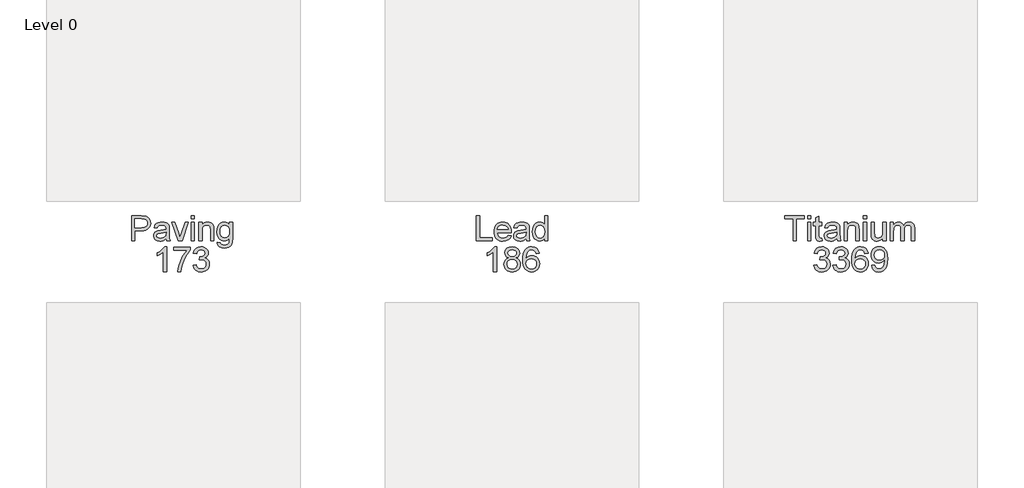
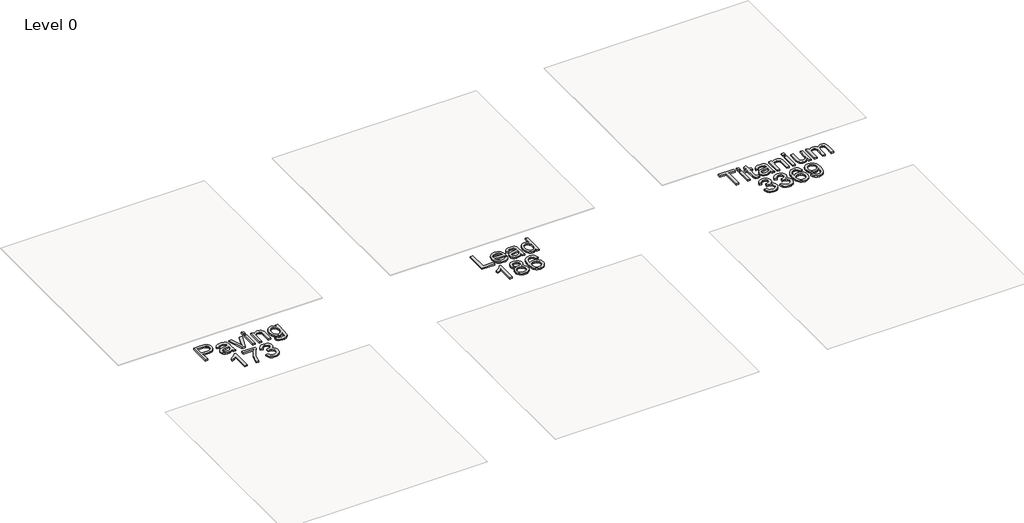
# One storey, part 6 of 6: 3 proxies.
"""IFC4 building model written with IfcOpenShell, lengths in millimetres."""

from ifc_helpers import new_model, si_unit, origin, origin_with_axes, place, context, project, spatial, polyline, outline, extrude, element, save

model = new_model("IFC4")

# Units and contexts
model_context = context("Model", 3, world=origin())
ifc_project = project(units=[si_unit("LENGTHUNIT", "METRE", prefix="MILLI")], contexts=[model_context])

# Site, building, storey
site = spatial("IfcSite", under=ifc_project)
building = spatial("IfcBuilding", under=site)
storey = spatial("IfcBuildingStorey", under=building, Name="Level 0", Elevation=0.0)

# Proxies
placement = place(None, origin())
element("IfcBuildingElementProxy", 1, Name="300mm Arial", ObjectType="300mm Arial", at=placement, inside=storey, context=model_context, shape_type="SweptSolid", body=[
    extrude(outline(polyline([(-445.4214187, 2062.8269821), (-445.4214187, 2358.2115975), (-335.9502648, 2358.2115975), (-291.8156494, 2355.3990975), (-272.1371639, 2350.1436889), (-255.9382456, 2341.5890014), (-242.8943754, 2329.3474148), (-232.681034, 2313.0313091), (-226.0824764, 2293.7855158), (-223.8829571, 2272.7548668), (-229.8234619, 2237.9411648), (-237.2490929, 2222.7112971), (-247.6449764, 2208.9327514), (-261.9170617, 2197.5114773), (-280.9712985, 2189.3534245), (-304.8076867, 2184.4585927), (-333.4262264, 2182.8269821), (-408.4983417, 2182.8269821), (-408.4983417, 2062.8269821), (-445.4214187, 2062.8269821)]), holes=[polyline([(-408.4983417, 2219.7500591), (-331.2627648, 2219.7500591), (-298.5223802, 2223.1394821), (-276.8877648, 2233.3077514), (-264.8264667, 2249.6238571), (-260.806034, 2271.4567898), (-263.1768273, 2288.0433283), (-270.2892071, 2302.0337129), (-281.25976, 2312.5625591), (-295.2050725, 2318.7644821), (-332.1281494, 2321.2885206), (-408.4983417, 2321.2885206), (-408.4983417, 2219.7500591)])]), origin_with_axes(), (0.0, 0.0, 1.0), 20.0),
    extrude(outline(polyline([(-39.2675725, 2090.5192898), (-56.9087985, 2075.3930879), (-75.072861, 2065.4952514), (-94.1744235, 2060.032511), (-114.6281494, 2058.2115975), (-145.4845196, 2062.5926071), (-168.2459379, 2075.735636), (-182.2813946, 2095.6935687), (-186.9598802, 2120.5192898), (-185.1930533, 2135.8257802), (-179.8925725, 2149.7260206), (-171.7164908, 2161.6250591), (-161.322861, 2170.9279437), (-135.4694956, 2183.0433283), (-103.5223802, 2188.5962129), (-65.7699764, 2194.4375591), (-39.4839187, 2201.2885206), (-39.2675725, 2209.5096745), (-41.8096398, 2225.9880398), (-49.4358417, 2236.7692898), (-66.4911302, 2244.7740975), (-90.2531494, 2247.4423668), (-112.2483417, 2245.6665254), (-127.6089187, 2240.3390014), (-138.0836783, 2230.486237), (-145.4214187, 2215.1346745), (-182.3444956, 2219.7500591), (-175.9352408, 2239.9423668), (-166.3709379, 2255.8077514), (-152.759159, 2267.9411648), (-134.2074764, 2276.9375591), (-111.5181735, 2282.5084725), (-85.493534, 2284.3654437), (-60.5325965, 2282.7248187), (-40.7459379, 2277.8029437), (-25.8270677, 2270.4021023), (-15.4694956, 2261.3245783), (-8.6005052, 2250.1016216), (-4.1473802, 2236.2644821), (-2.3444956, 2203.9567898), (-2.3444956, 2158.0192898), (-0.4694956, 2093.8726552), (6.8862736, 2062.8269821), (-30.0368033, 2062.8269821), (-39.2675725, 2090.5192898)]), holes=[polyline([(-39.2675725, 2164.3654437), (-98.8348802, 2153.0433283), (-130.6017071, 2147.0577514), (-144.9887264, 2137.3221745), (-150.0368033, 2123.1154437), (-147.2874042, 2112.1358764), (-139.0392071, 2103.1394821), (-125.4725004, 2097.1358764), (-106.7675725, 2095.1346745), (-86.9358417, 2097.3432081), (-69.4118033, 2103.9688091), (-55.2050725, 2113.7314293), (-45.3252648, 2125.3510206), (-40.9442552, 2137.3221745), (-39.4839187, 2153.9087129), (-39.2675725, 2164.3654437)])]), origin_with_axes(), (0.0, 0.0, 1.0), 20.0),
    extrude(outline(polyline([(101.645889, 2062.8269821), (25.3478121, 2279.7500591), (64.4343506, 2279.7500591), (110.6603121, 2149.798136), (124.5785813, 2106.0962129), (138.208389, 2147.3462129), (184.7228121, 2279.7500591), (223.8093506, 2279.7500591), (148.4487736, 2062.8269821), (101.645889, 2062.8269821)])), origin_with_axes(), (0.0, 0.0, 1.0), 20.0),
    extrude(outline(polyline([(256.1170429, 2321.2885206), (256.1170429, 2358.2115975), (293.0401198, 2358.2115975), (293.0401198, 2321.2885206), (256.1170429, 2321.2885206)])), origin_with_axes(), (0.0, 0.0, 1.0), 20.0),
    extrude(outline(polyline([(256.1170429, 2062.8269821), (256.1170429, 2279.7500591), (293.0401198, 2279.7500591), (293.0401198, 2062.8269821), (256.1170429, 2062.8269821)])), origin_with_axes(), (0.0, 0.0, 1.0), 20.0),
    extrude(outline(polyline([(348.4247352, 2062.8269821), (348.4247352, 2279.7500591), (385.3478121, 2279.7500591), (385.3478121, 2249.4615975), (398.1753361, 2264.7320302), (413.5809852, 2275.6394821), (431.5647592, 2282.1839533), (452.1266583, 2284.3654437), (470.3267785, 2282.6076312), (486.9944467, 2277.3341937), (500.8946871, 2269.2031841), (510.7925236, 2258.8726552), (521.8622352, 2231.7212129), (523.8093506, 2196.0240975), (523.8093506, 2062.8269821), (486.8862736, 2062.8269821), (486.8862736, 2191.048136), (482.631466, 2223.7164052), (476.7450477, 2233.4429677), (467.5954083, 2240.9880398), (455.8676438, 2245.828785), (442.2468506, 2247.4423668), (420.6212496, 2243.8185687), (402.1867544, 2232.9471745), (394.8197172, 2224.0724749), (389.5575477, 2211.9435687), (385.3478121, 2177.923136), (385.3478121, 2062.8269821), (348.4247352, 2062.8269821)])), origin_with_axes(), (0.0, 0.0, 1.0), 20.0),
    extrude(outline(polyline([(565.3478121, 2044.3654437), (602.270889, 2039.7500591), (606.3454083, 2028.2115975), (614.2420429, 2020.2789052), (629.7648794, 2014.1130398), (650.083389, 2012.0577514), (671.7540621, 2014.3834725), (687.8718506, 2021.360636), (699.0497352, 2032.5385206), (705.9006967, 2047.4664052), (708.4247352, 2090.5192898), (696.1380765, 2078.4039052), (682.427139, 2069.7500591), (667.2919227, 2064.5577514), (650.7324275, 2062.8269821), (630.4882869, 2064.8417057), (612.6645188, 2070.8858764), (597.2611234, 2080.9594942), (584.2781006, 2095.0625591), (573.9768686, 2111.9826312), (566.6188458, 2130.5072706), (560.7324275, 2172.3702514), (563.3736535, 2202.1809485), (571.2973313, 2229.5938091), (584.224014, 2252.8239773), (601.8742544, 2270.0865975), (623.6440861, 2280.7957321), (648.9295429, 2284.3654437), (666.1966703, 2282.3462129), (681.8682448, 2276.2885206), (695.9442664, 2266.1923668), (708.4247352, 2252.0577514), (708.4247352, 2279.7500591), (745.3478121, 2279.7500591), (745.3478121, 2092.4664052), (742.8237736, 2049.2242177), (735.2516583, 2020.7476552), (722.2077881, 2001.8624389), (703.2684852, 1987.3942898), (678.8484131, 1978.1995783), (649.3622352, 1975.1346745), (615.0082688, 1979.4525831), (587.9559852, 1992.4063091), (577.7674335, 2002.130618), (570.6032208, 2014.03191), (566.463347, 2028.1101853), (565.3478121, 2044.3654437)]), holes=[polyline([(597.6555044, 2174.8942898), (601.5948073, 2141.0271023), (613.412716, 2117.7428475), (631.1801438, 2104.2482562), (652.9680044, 2099.7500591), (674.5936054, 2104.2212129), (692.4511775, 2117.6346745), (704.4313458, 2140.6214533), (708.4247352, 2173.8125591), (704.3141583, 2205.8227754), (691.9824275, 2228.8726552), (673.8634371, 2242.7999389), (652.3910813, 2247.4423668), (631.3063458, 2242.8720543), (613.6290621, 2229.1611168), (601.6488938, 2206.453785), (597.6555044, 2174.8942898)])]), origin_with_axes(), (0.0, 0.0, 1.0), 20.0),
    extrude(outline(polyline([(-34.6521879, 1698.2115975), (-71.5752648, 1698.2115975), (-71.5752648, 1928.4039052), (-106.5512264, 1903.4880398), (-145.4214187, 1884.8462129), (-145.4214187, 1919.7500591), (-116.4220196, 1935.5252995), (-91.2988225, 1954.2933283), (-71.494135, 1974.251261), (-58.4502648, 1993.5962129), (-34.6521879, 1993.5962129), (-34.6521879, 1698.2115975)])), origin_with_axes(), (0.0, 0.0, 1.0), 20.0),
    extrude(outline(polyline([(53.0401198, 1952.0577514), (53.0401198, 1988.9808283), (246.8862736, 1988.9808283), (246.8862736, 1959.1250591), (219.2570669, 1924.158112), (191.8982929, 1879.6899629), (167.7666823, 1829.7771023), (149.818966, 1778.4760206), (141.020889, 1740.0926071), (136.1170429, 1698.2115975), (99.193966, 1698.2115975), (103.1873554, 1736.2704918), (113.8694467, 1781.5048668), (130.9517785, 1829.4525831), (154.145889, 1875.6515014), (181.225216, 1917.4153235), (209.9631967, 1952.0577514), (53.0401198, 1952.0577514)])), origin_with_axes(), (0.0, 0.0, 1.0), 20.0),
    extrude(outline(polyline([(279.193966, 1776.673136), (316.1170429, 1781.2885206), (324.3832688, 1758.0853956), (336.489639, 1742.4183283), (353.0311054, 1733.4940495), (374.6026198, 1730.5192898), (399.9151198, 1734.6118379), (419.458389, 1746.8894821), (431.9523794, 1765.2067898), (436.1170429, 1787.4183283), (431.9884371, 1808.5030639), (419.6026198, 1825.6034245), (400.8526198, 1836.9345543), (377.631466, 1840.7115975), (351.7420429, 1836.673136), (355.8526198, 1873.5962129), (361.7660813, 1873.1635206), (383.8874756, 1875.813761), (403.6651198, 1883.7644821), (417.6194467, 1897.2140014), (422.270889, 1916.360636), (418.8994948, 1932.3071504), (408.7853121, 1945.2428475), (393.3526198, 1953.8155639), (374.0256967, 1956.673136), (354.662716, 1953.7885206), (338.833389, 1945.1346745), (327.2768986, 1930.7115975), (320.7324275, 1910.5192898), (283.8093506, 1915.1346745), (294.6807448, 1948.2897225), (314.0256967, 1973.0433283), (340.4920429, 1988.4579918), (372.7276198, 1993.5962129), (395.9397592, 1991.06316), (417.2588698, 1983.4640014), (435.2336294, 1971.4748187), (448.412716, 1955.7716937), (456.4986535, 1937.6797466), (459.193966, 1918.5240975), (456.6338698, 1900.6755398), (448.9535813, 1884.485636), (436.2612736, 1870.6935687), (418.6651198, 1860.0385206), (441.7781006, 1850.6995783), (458.9055044, 1834.798136), (469.506466, 1813.1995783), (473.0401198, 1786.7692898), (471.2732929, 1768.0373187), (465.9728121, 1750.7837129), (457.1386775, 1735.0084725), (444.770889, 1720.7115975), (429.7032809, 1708.8486168), (412.7696871, 1700.3750591), (393.9701078, 1695.2909245), (373.3045429, 1693.5962129), (337.6074275, 1699.3834725), (322.2468506, 1706.6175471), (308.5449275, 1716.7452514), (297.0560453, 1729.1716336), (288.334591, 1743.3017418), (279.193966, 1776.673136)])), origin_with_axes(), (0.0, 0.0, 1.0), 20.0),
])
element("IfcBuildingElementProxy", 2, Name="300mm Arial", ObjectType="300mm Arial", at=placement, inside=storey, context=model_context, shape_type="SweptSolid", body=[
    extrude(outline(polyline([(3627.6555044, 2062.8269821), (3627.6555044, 2358.2115975), (3664.5785813, 2358.2115975), (3664.5785813, 2099.7500591), (3812.270889, 2099.7500591), (3812.270889, 2062.8269821), (3627.6555044, 2062.8269821)])), origin_with_axes(), (0.0, 0.0, 1.0), 20.0),
    extrude(outline(polyline([(4001.068966, 2127.4423668), (4037.270889, 2122.8269821), (4024.2270188, 2095.5493379), (4003.412716, 2075.1587129), (3975.2967304, 2062.4483764), (3940.3478121, 2058.2115975), (3917.4376559, 2060.0392718), (3897.0244948, 2065.5222946), (3879.1083289, 2074.660666), (3863.6891583, 2087.454386), (3851.2898193, 2103.5473848), (3842.4331486, 2122.5835927), (3837.1191462, 2144.5630098), (3835.3478121, 2169.485636), (3837.1371751, 2195.2533644), (3842.505264, 2217.9652033), (3851.4520789, 2237.6211528), (3863.9776198, 2254.2212129), (3879.3562256, 2267.4093139), (3896.8622352, 2276.829386), (3916.4956486, 2282.4814293), (3938.256466, 2284.3654437), (3959.3164119, 2282.4859365), (3978.3616342, 2276.8474148), (3995.392133, 2267.4498788), (4010.4079083, 2254.2933283), (4022.66527, 2237.7293259), (4031.4205285, 2218.1094341), (4036.6736835, 2195.4336528), (4038.4247352, 2169.7019821), (4038.208389, 2159.7500591), (3872.270889, 2159.7500591), (3878.662115, 2132.1118379), (3893.5088698, 2111.7933283), (3914.9361535, 2099.2993379), (3941.068966, 2095.1346745), (3960.7204083, 2097.063761), (3977.270889, 2102.8510206), (3990.7204083, 2112.8570302), (4001.068966, 2127.4423668)]), holes=[polyline([(3872.270889, 2196.673136), (4001.5016583, 2196.673136), (3996.5076679, 2216.1803475), (3986.7180044, 2230.1346745), (3965.1915621, 2243.1154437), (3938.1122352, 2247.4423668), (3913.2234131, 2243.9898427), (3892.6434852, 2233.6322706), (3878.3375958, 2217.4874389), (3872.270889, 2196.673136)])]), origin_with_axes(), (0.0, 0.0, 1.0), 20.0),
    extrude(outline(polyline([(4213.8093506, 2090.5192898), (4196.1681246, 2075.3930879), (4178.0040621, 2065.4952514), (4158.9024996, 2060.032511), (4138.4487736, 2058.2115975), (4107.5924035, 2062.5926071), (4084.8309852, 2075.735636), (4070.7955285, 2095.6935687), (4066.1170429, 2120.5192898), (4067.8838698, 2135.8257802), (4073.1843506, 2149.7260206), (4081.3604323, 2161.6250591), (4091.7540621, 2170.9279437), (4117.6074275, 2183.0433283), (4149.5545429, 2188.5962129), (4187.3069467, 2194.4375591), (4213.5930044, 2201.2885206), (4213.8093506, 2209.5096745), (4211.2672833, 2225.9880398), (4203.6410813, 2236.7692898), (4186.5857929, 2244.7740975), (4162.8237736, 2247.4423668), (4140.8285813, 2245.6665254), (4125.4680044, 2240.3390014), (4114.9932448, 2230.486237), (4107.6555044, 2215.1346745), (4070.7324275, 2219.7500591), (4077.1416823, 2239.9423668), (4086.7059852, 2255.8077514), (4100.317764, 2267.9411648), (4118.8694467, 2276.9375591), (4141.5587496, 2282.5084725), (4167.583389, 2284.3654437), (4192.5443265, 2282.7248187), (4212.3309852, 2277.8029437), (4227.2498554, 2270.4021023), (4237.6074275, 2261.3245783), (4244.4764179, 2250.1016216), (4248.9295429, 2236.2644821), (4250.7324275, 2203.9567898), (4250.7324275, 2158.0192898), (4252.6074275, 2093.8726552), (4259.9631967, 2062.8269821), (4223.0401198, 2062.8269821), (4213.8093506, 2090.5192898)]), holes=[polyline([(4213.8093506, 2164.3654437), (4154.2420429, 2153.0433283), (4122.475216, 2147.0577514), (4108.0881967, 2137.3221745), (4103.0401198, 2123.1154437), (4105.7895188, 2112.1358764), (4114.037716, 2103.1394821), (4127.6044227, 2097.1358764), (4146.3093506, 2095.1346745), (4166.1410813, 2097.3432081), (4183.6651198, 2103.9688091), (4197.8718506, 2113.7314293), (4207.7516583, 2125.3510206), (4212.1326679, 2137.3221745), (4213.5930044, 2153.9087129), (4213.8093506, 2164.3654437)])]), origin_with_axes(), (0.0, 0.0, 1.0), 20.0),
    extrude(outline(polyline([(4435.3478121, 2062.8269821), (4435.3478121, 2097.6587129), (4424.3006366, 2080.4005999), (4410.9187256, 2068.0733764), (4395.2020789, 2060.6770422), (4377.1506967, 2058.2115975), (4353.2805044, 2061.7813091), (4331.4295429, 2072.4904437), (4312.9319467, 2089.5908043), (4299.1218506, 2112.3341937), (4290.522091, 2139.8011408), (4287.6555044, 2171.0721745), (4290.2967304, 2201.9555879), (4298.2204083, 2229.8462129), (4311.4175236, 2253.157511), (4329.8790621, 2270.3029437), (4352.2077881, 2280.8498187), (4377.006466, 2284.3654437), (4395.0713698, 2281.8504196), (4411.0449275, 2274.3053475), (4424.584591, 2262.7398427), (4435.3478121, 2248.1635206), (4435.3478121, 2358.2115975), (4472.270889, 2358.2115975), (4472.270889, 2062.8269821), (4435.3478121, 2062.8269821)]), holes=[polyline([(4324.5785813, 2171.2164052), (4328.7432448, 2137.8179677), (4341.2372352, 2114.0649629), (4359.3922833, 2099.8672466), (4380.5401198, 2095.1346745), (4401.6789419, 2099.6509004), (4419.3742544, 2113.1995783), (4431.3544227, 2136.033112), (4435.3478121, 2168.4039052), (4431.2823073, 2203.7945302), (4419.0857929, 2228.3317898), (4400.9397592, 2242.6647225), (4379.0256967, 2247.4423668), (4357.661514, 2242.8540254), (4340.1555044, 2229.0890014), (4328.4728121, 2205.4441696), (4324.5785813, 2171.2164052)])]), origin_with_axes(), (0.0, 0.0, 1.0), 20.0),
    extrude(outline(polyline([(3865.3478121, 1698.2115975), (3828.4247352, 1698.2115975), (3828.4247352, 1928.4039052), (3793.4487736, 1903.4880398), (3754.5785813, 1884.8462129), (3754.5785813, 1919.7500591), (3783.5779804, 1935.5252995), (3808.7011775, 1954.2933283), (3828.505865, 1974.251261), (3841.5497352, 1993.5962129), (3865.3478121, 1993.5962129), (3865.3478121, 1698.2115975)])), origin_with_axes(), (0.0, 0.0, 1.0), 20.0),
    extrude(outline(polyline([(4006.8381967, 1860.9039052), (3987.0695669, 1870.6394821), (3973.1963698, 1883.8365975), (3965.0022592, 1900.2248187), (3962.270889, 1919.5337129), (3968.2204083, 1948.3978956), (3986.068966, 1972.2500591), (3998.9550837, 1981.5890014), (4013.8153602, 1988.2596745), (4049.458389, 1993.5962129), (4085.317764, 1988.1334725), (4100.3403001, 1981.3050471), (4113.4247352, 1971.7452514), (4131.5978121, 1947.5144821), (4136.1410813, 1933.6142418), (4137.6555044, 1918.5240975), (4134.9601919, 1899.8371985), (4126.8742544, 1883.7284245), (4113.3075477, 1870.6124389), (4094.1699275, 1860.9039052), (4116.8952881, 1849.1941696), (4133.4367544, 1831.9495783), (4143.5238938, 1809.9994581), (4146.8862736, 1784.173136), (4145.2186054, 1765.7566696), (4140.2156006, 1748.8726552), (4131.8772592, 1733.5210927), (4120.2035813, 1719.7019821), (4105.8075477, 1708.2807081), (4089.302139, 1700.1226552), (4070.6873554, 1695.2278235), (4049.9631967, 1693.5962129), (4029.2390381, 1695.2345843), (4010.6242544, 1700.1496985), (3994.1188458, 1708.3415555), (3979.7228121, 1719.8101552), (3968.0491342, 1733.7261708), (3959.7107929, 1749.2602754), (3954.7077881, 1766.4124689), (3953.0401198, 1785.1827514), (3956.537716, 1812.0096745), (3967.0305044, 1834.0769821), (3983.9776198, 1850.6274629), (4006.8381967, 1860.9039052)]), holes=[polyline([(3999.193966, 1918.4519821), (4002.4662015, 1902.3341937), (4012.2829083, 1889.4615975), (4028.3556246, 1881.0240975), (4050.395889, 1878.2115975), (4071.9223313, 1881.0060687), (4087.7516583, 1889.3894821), (4097.4872352, 1901.829386), (4100.7324275, 1916.7933283), (4097.3790621, 1932.3251793), (4087.318966, 1945.1707321), (4071.2732929, 1953.797535), (4049.9631967, 1956.673136), (4028.5178842, 1953.860636), (4012.4992544, 1945.423136), (4002.5202881, 1933.0553475), (3999.193966, 1918.4519821)]), polyline([(3989.9631967, 1786.4808283), (3996.1290621, 1758.6803475), (4004.6657208, 1746.7542658), (4017.943966, 1737.8750591), (4033.8454083, 1732.3582321), (4050.2516583, 1730.5192898), (4075.3838698, 1734.3864773), (4094.2420429, 1745.9880398), (4106.0329083, 1763.5571504), (4109.9631967, 1785.3269821), (4105.9067063, 1807.4664052), (4093.7372352, 1825.423136), (4074.4463698, 1837.3221745), (4049.0256967, 1841.2885206), (4024.2450477, 1837.376261), (4005.5761775, 1825.6394821), (3993.8664419, 1808.0252995), (3989.9631967, 1786.4808283)])]), origin_with_axes(), (0.0, 0.0, 1.0), 20.0),
    extrude(outline(polyline([(4368.4247352, 1915.1346745), (4331.5016583, 1910.5192898), (4325.552139, 1928.8185687), (4317.5112736, 1941.3125591), (4300.7624756, 1952.8329918), (4280.5160813, 1956.673136), (4263.3526198, 1954.4375591), (4247.1987736, 1947.7308283), (4233.3255765, 1933.6052273), (4221.9944467, 1914.1611168), (4214.3412015, 1886.658112), (4211.5016583, 1848.3558283), (4226.3123554, 1865.6364773), (4244.0617544, 1877.8149629), (4263.7582688, 1885.0355158), (4284.4103121, 1887.4423668), (4302.1506967, 1885.7972346), (4318.520889, 1880.8618379), (4333.520889, 1872.6361769), (4347.1506967, 1861.1202514), (4358.4773193, 1846.9991576), (4366.567764, 1830.9579918), (4371.4220309, 1812.9967538), (4373.0401198, 1793.1154437), (4369.9932448, 1766.6761408), (4360.8526198, 1742.1659245), (4346.3754563, 1721.3786648), (4327.318966, 1706.1082321), (4304.5485333, 1696.7242177), (4278.9295429, 1693.5962129), (4256.9185753, 1695.6695302), (4237.0395188, 1701.8894821), (4219.2923734, 1712.2560687), (4203.677139, 1726.7692898), (4190.94652, 1746.0421264), (4181.8532208, 1770.6875591), (4176.3972412, 1800.7055879), (4174.5785813, 1836.0962129), (4176.5978121, 1875.7731961), (4182.6555044, 1909.6358764), (4192.7516583, 1937.6842538), (4206.8862736, 1959.9183283), (4222.2062857, 1974.6524028), (4239.9692063, 1985.1767418), (4260.1750357, 1991.4913451), (4282.8237736, 1993.5962129), (4315.2216102, 1988.3858764), (4341.1651198, 1972.7548668), (4359.3381967, 1947.9291456), (4368.4247352, 1915.1346745)]), holes=[polyline([(4211.5016583, 1793.6923668), (4213.6380765, 1777.3311889), (4220.0473313, 1761.7091937), (4229.9992544, 1748.2777033), (4242.7636775, 1738.4880398), (4258.1693265, 1732.5114773), (4276.0449275, 1730.5192898), (4300.4109131, 1734.6478956), (4319.5665621, 1747.0337129), (4331.9794227, 1766.5048668), (4336.1170429, 1791.8894821), (4332.0335092, 1816.2554677), (4319.7829083, 1834.8341937), (4300.30274, 1846.5980158), (4274.5305044, 1850.5192898), (4250.2005765, 1846.5980158), (4229.8550236, 1834.8341937), (4216.0899996, 1816.7061889), (4211.5016583, 1793.6923668)])]), origin_with_axes(), (0.0, 0.0, 1.0), 20.0),
])
element("IfcBuildingElementProxy", 3, Name="300mm Arial", ObjectType="300mm Arial", at=placement, inside=storey, context=model_context, shape_type="SweptSolid", body=[
    extrude(outline(polyline([(7369.193966, 2062.8269821), (7369.193966, 2321.2885206), (7272.270889, 2321.2885206), (7272.270889, 2358.2115975), (7503.0401198, 2358.2115975), (7503.0401198, 2321.2885206), (7406.1170429, 2321.2885206), (7406.1170429, 2062.8269821), (7369.193966, 2062.8269821)])), origin_with_axes(), (0.0, 0.0, 1.0), 20.0),
    extrude(outline(polyline([(7539.9631967, 2321.2885206), (7539.9631967, 2358.2115975), (7576.8862736, 2358.2115975), (7576.8862736, 2321.2885206), (7539.9631967, 2321.2885206)])), origin_with_axes(), (0.0, 0.0, 1.0), 20.0),
    extrude(outline(polyline([(7539.9631967, 2062.8269821), (7539.9631967, 2279.7500591), (7576.8862736, 2279.7500591), (7576.8862736, 2062.8269821), (7539.9631967, 2062.8269821)])), origin_with_axes(), (0.0, 0.0, 1.0), 20.0),
    extrude(outline(polyline([(7710.7324275, 2093.6202514), (7715.3478121, 2061.7452514), (7687.7276198, 2058.2115975), (7670.005264, 2059.7440495), (7656.7901198, 2064.3414052), (7647.4511775, 2071.4267418), (7641.3574275, 2080.423136), (7638.0040621, 2095.8738571), (7636.8862736, 2122.3221745), (7636.8862736, 2242.8269821), (7609.193966, 2242.8269821), (7609.193966, 2279.7500591), (7636.8862736, 2279.7500591), (7636.8862736, 2332.4664052), (7673.8093506, 2354.173136), (7673.8093506, 2279.7500591), (7710.7324275, 2279.7500591), (7710.7324275, 2242.8269821), (7673.8093506, 2242.8269821), (7673.8093506, 2123.4039052), (7675.756466, 2104.3654437), (7682.0665621, 2097.6226552), (7694.6506967, 2095.1346745), (7710.7324275, 2093.6202514)])), origin_with_axes(), (0.0, 0.0, 1.0), 20.0),
    extrude(outline(polyline([(7886.1170429, 2090.5192898), (7868.4758169, 2075.3930879), (7850.3117544, 2065.4952514), (7831.2101919, 2060.032511), (7810.756466, 2058.2115975), (7779.9000958, 2062.5926071), (7757.1386775, 2075.735636), (7743.1032208, 2095.6935687), (7738.4247352, 2120.5192898), (7740.1915621, 2135.8257802), (7745.4920429, 2149.7260206), (7753.6681246, 2161.6250591), (7764.0617544, 2170.9279437), (7789.9151198, 2183.0433283), (7821.8622352, 2188.5962129), (7859.614639, 2194.4375591), (7885.9006967, 2201.2885206), (7886.1170429, 2209.5096745), (7883.5749756, 2225.9880398), (7875.9487736, 2236.7692898), (7858.8934852, 2244.7740975), (7835.131466, 2247.4423668), (7813.1362736, 2245.6665254), (7797.7756967, 2240.3390014), (7787.3009371, 2230.486237), (7779.9631967, 2215.1346745), (7743.0401198, 2219.7500591), (7749.4493746, 2239.9423668), (7759.0136775, 2255.8077514), (7772.6254563, 2267.9411648), (7791.177139, 2276.9375591), (7813.8664419, 2282.5084725), (7839.8910813, 2284.3654437), (7864.8520188, 2282.7248187), (7884.6386775, 2277.8029437), (7899.5575477, 2270.4021023), (7909.9151198, 2261.3245783), (7916.7841102, 2250.1016216), (7921.2372352, 2236.2644821), (7923.0401198, 2203.9567898), (7923.0401198, 2158.0192898), (7924.9151198, 2093.8726552), (7932.270889, 2062.8269821), (7895.3478121, 2062.8269821), (7886.1170429, 2090.5192898)]), holes=[polyline([(7886.1170429, 2164.3654437), (7826.5497352, 2153.0433283), (7794.7829083, 2147.0577514), (7780.395889, 2137.3221745), (7775.3478121, 2123.1154437), (7778.0972111, 2112.1358764), (7786.3454083, 2103.1394821), (7799.912115, 2097.1358764), (7818.6170429, 2095.1346745), (7838.4487736, 2097.3432081), (7855.9728121, 2103.9688091), (7870.1795429, 2113.7314293), (7880.0593506, 2125.3510206), (7884.4403602, 2137.3221745), (7885.9006967, 2153.9087129), (7886.1170429, 2164.3654437)])]), origin_with_axes(), (0.0, 0.0, 1.0), 20.0),
    extrude(outline(polyline([(7973.8093506, 2062.8269821), (7973.8093506, 2279.7500591), (8010.7324275, 2279.7500591), (8010.7324275, 2249.4615975), (8023.5599515, 2264.7320302), (8038.9656006, 2275.6394821), (8056.9493746, 2282.1839533), (8077.5112736, 2284.3654437), (8095.7113938, 2282.6076312), (8112.3790621, 2277.3341937), (8126.2793025, 2269.2031841), (8136.177139, 2258.8726552), (8147.2468506, 2231.7212129), (8149.193966, 2196.0240975), (8149.193966, 2062.8269821), (8112.270889, 2062.8269821), (8112.270889, 2191.048136), (8108.0160813, 2223.7164052), (8102.1296631, 2233.4429677), (8092.9800236, 2240.9880398), (8081.2522592, 2245.828785), (8067.631466, 2247.4423668), (8046.005865, 2243.8185687), (8027.5713698, 2232.9471745), (8020.2043325, 2224.0724749), (8014.9421631, 2211.9435687), (8010.7324275, 2177.923136), (8010.7324275, 2062.8269821), (7973.8093506, 2062.8269821)])), origin_with_axes(), (0.0, 0.0, 1.0), 20.0),
    extrude(outline(polyline([(8199.9631967, 2062.8269821), (8199.9631967, 2279.7500591), (8236.8862736, 2279.7500591), (8236.8862736, 2062.8269821), (8199.9631967, 2062.8269821)])), origin_with_axes(), (0.0, 0.0, 1.0), 20.0),
    extrude(outline(polyline([(8199.9631967, 2321.2885206), (8199.9631967, 2358.2115975), (8236.8862736, 2358.2115975), (8236.8862736, 2321.2885206), (8199.9631967, 2321.2885206)])), origin_with_axes(), (0.0, 0.0, 1.0), 20.0),
    extrude(outline(polyline([(8430.7324275, 2062.8269821), (8430.7324275, 2100.110636), (8417.3730525, 2081.7798067), (8401.8141583, 2068.6863571), (8384.0557448, 2060.8302874), (8364.0978121, 2058.2115975), (8346.1140381, 2060.0505398), (8329.3742544, 2065.5673668), (8315.3297833, 2073.860636), (8305.4319467, 2084.0289052), (8294.4343506, 2111.2164052), (8292.270889, 2145.5433283), (8292.270889, 2279.7500591), (8329.193966, 2279.7500591), (8329.193966, 2162.923136), (8331.4295429, 2125.2789052), (8336.8111535, 2112.7218139), (8346.0329083, 2103.1755398), (8358.4818265, 2097.1448908), (8373.5449275, 2095.1346745), (8389.4734131, 2097.1899629), (8404.3742544, 2103.3558283), (8416.6609131, 2113.064362), (8424.7468506, 2125.7476552), (8429.2360333, 2143.1184485), (8430.7324275, 2166.8894821), (8430.7324275, 2279.7500591), (8467.6555044, 2279.7500591), (8467.6555044, 2062.8269821), (8430.7324275, 2062.8269821)])), origin_with_axes(), (0.0, 0.0, 1.0), 20.0),
    extrude(outline(polyline([(8518.4247352, 2062.8269821), (8518.4247352, 2279.7500591), (8555.3478121, 2279.7500591), (8555.3478121, 2244.0529437), (8566.4535813, 2260.4501793), (8580.7324275, 2273.2957321), (8597.6975717, 2281.5980158), (8616.8622352, 2284.3654437), (8637.397091, 2281.5439293), (8653.8574275, 2273.079386), (8666.1531006, 2259.5307081), (8674.193966, 2241.4567898), (8687.6524996, 2260.2293259), (8703.0040621, 2273.6382802), (8720.2486535, 2281.6836528), (8739.3862736, 2284.3654437), (8767.1416823, 2279.9033043), (8787.6675236, 2266.516886), (8800.3508169, 2243.845612), (8804.5785813, 2211.5289052), (8804.5785813, 2062.8269821), (8767.6555044, 2062.8269821), (8767.6555044, 2195.6635206), (8764.2300236, 2226.4928475), (8759.4163217, 2234.9934485), (8751.8261775, 2241.673136), (8742.0635573, 2246.0000591), (8730.7324275, 2247.4423668), (8710.7294227, 2243.7464533), (8694.4223313, 2232.6587129), (8683.5779804, 2213.4219341), (8679.9631967, 2185.2789052), (8679.9631967, 2062.8269821), (8643.0401198, 2062.8269821), (8643.0401198, 2199.7740975), (8640.9037015, 2220.6515014), (8634.4944467, 2235.5433283), (8623.2174035, 2244.4676071), (8606.4776198, 2247.4423668), (8592.2528602, 2245.4591937), (8579.145889, 2239.5096745), (8568.3285813, 2229.7380398), (8560.9728121, 2216.2885206), (8556.7540621, 2197.6286648), (8555.3478121, 2172.2260206), (8555.3478121, 2062.8269821), (8518.4247352, 2062.8269821)])), origin_with_axes(), (0.0, 0.0, 1.0), 20.0),
    extrude(outline(polyline([(7613.8093506, 1776.673136), (7650.7324275, 1781.2885206), (7658.9986535, 1758.0853956), (7671.1050236, 1742.4183283), (7687.64649, 1733.4940495), (7709.2180044, 1730.5192898), (7734.5305044, 1734.6118379), (7754.0737736, 1746.8894821), (7766.567764, 1765.2067898), (7770.7324275, 1787.4183283), (7766.6038217, 1808.5030639), (7754.2180044, 1825.6034245), (7735.4680044, 1836.9345543), (7712.2468506, 1840.7115975), (7686.3574275, 1836.673136), (7690.4680044, 1873.5962129), (7696.381466, 1873.1635206), (7718.5028602, 1875.813761), (7738.2805044, 1883.7644821), (7752.2348313, 1897.2140014), (7756.8862736, 1916.360636), (7753.5148794, 1932.3071504), (7743.4006967, 1945.2428475), (7727.9680044, 1953.8155639), (7708.6410813, 1956.673136), (7689.2781006, 1953.7885206), (7673.4487736, 1945.1346745), (7661.8922833, 1930.7115975), (7655.3478121, 1910.5192898), (7618.4247352, 1915.1346745), (7629.2961294, 1948.2897225), (7648.6410813, 1973.0433283), (7675.1074275, 1988.4579918), (7707.3430044, 1993.5962129), (7730.5551438, 1991.06316), (7751.8742544, 1983.4640014), (7769.849014, 1971.4748187), (7783.0281006, 1955.7716937), (7791.1140381, 1937.6797466), (7793.8093506, 1918.5240975), (7791.2492544, 1900.6755398), (7783.568966, 1884.485636), (7770.8766583, 1870.6935687), (7753.2805044, 1860.0385206), (7776.3934852, 1850.6995783), (7793.520889, 1834.798136), (7804.1218506, 1813.1995783), (7807.6555044, 1786.7692898), (7805.8886775, 1768.0373187), (7800.5881967, 1750.7837129), (7791.7540621, 1735.0084725), (7779.3862736, 1720.7115975), (7764.3186655, 1708.8486168), (7747.3850717, 1700.3750591), (7728.5854924, 1695.2909245), (7707.9199275, 1693.5962129), (7672.2228121, 1699.3834725), (7656.8622352, 1706.6175471), (7643.1603121, 1716.7452514), (7631.6714299, 1729.1716336), (7622.9499756, 1743.3017418), (7613.8093506, 1776.673136)])), origin_with_axes(), (0.0, 0.0, 1.0), 20.0),
    extrude(outline(polyline([(7839.9631967, 1776.673136), (7876.8862736, 1781.2885206), (7885.1524996, 1758.0853956), (7897.2588698, 1742.4183283), (7913.8003361, 1733.4940495), (7935.3718506, 1730.5192898), (7960.6843506, 1734.6118379), (7980.2276198, 1746.8894821), (7992.7216102, 1765.2067898), (7996.8862736, 1787.4183283), (7992.7576679, 1808.5030639), (7980.3718506, 1825.6034245), (7961.6218506, 1836.9345543), (7938.4006967, 1840.7115975), (7912.5112736, 1836.673136), (7916.6218506, 1873.5962129), (7922.5353121, 1873.1635206), (7944.6567063, 1875.813761), (7964.4343506, 1883.7644821), (7978.3886775, 1897.2140014), (7983.0401198, 1916.360636), (7979.6687256, 1932.3071504), (7969.5545429, 1945.2428475), (7954.1218506, 1953.8155639), (7934.7949275, 1956.673136), (7915.4319467, 1953.7885206), (7899.6026198, 1945.1346745), (7888.0461294, 1930.7115975), (7881.5016583, 1910.5192898), (7844.5785813, 1915.1346745), (7855.4499756, 1948.2897225), (7874.7949275, 1973.0433283), (7901.2612736, 1988.4579918), (7933.4968506, 1993.5962129), (7956.70899, 1991.06316), (7978.0281006, 1983.4640014), (7996.0028602, 1971.4748187), (8009.1819467, 1955.7716937), (8017.2678842, 1937.6797466), (8019.9631967, 1918.5240975), (8017.4031006, 1900.6755398), (8009.7228121, 1884.485636), (7997.0305044, 1870.6935687), (7979.4343506, 1860.0385206), (8002.5473313, 1850.6995783), (8019.6747352, 1834.798136), (8030.2756967, 1813.1995783), (8033.8093506, 1786.7692898), (8032.0425236, 1768.0373187), (8026.7420429, 1750.7837129), (8017.9079083, 1735.0084725), (8005.5401198, 1720.7115975), (7990.4725116, 1708.8486168), (7973.5389179, 1700.3750591), (7954.7393386, 1695.2909245), (7934.0737736, 1693.5962129), (7898.3766583, 1699.3834725), (7883.0160813, 1706.6175471), (7869.3141583, 1716.7452514), (7857.8252761, 1729.1716336), (7849.1038217, 1743.3017418), (7839.9631967, 1776.673136)])), origin_with_axes(), (0.0, 0.0, 1.0), 20.0),
    extrude(outline(polyline([(8255.3478121, 1915.1346745), (8218.4247352, 1910.5192898), (8212.475216, 1928.8185687), (8204.4343506, 1941.3125591), (8187.6855525, 1952.8329918), (8167.4391583, 1956.673136), (8150.2756967, 1954.4375591), (8134.1218506, 1947.7308283), (8120.2486535, 1933.6052273), (8108.9175236, 1914.1611168), (8101.2642785, 1886.658112), (8098.4247352, 1848.3558283), (8113.2354323, 1865.6364773), (8130.9848313, 1877.8149629), (8150.6813458, 1885.0355158), (8171.333389, 1887.4423668), (8189.0737736, 1885.7972346), (8205.443966, 1880.8618379), (8220.443966, 1872.6361769), (8234.0737736, 1861.1202514), (8245.4003962, 1846.9991576), (8253.490841, 1830.9579918), (8258.3451078, 1812.9967538), (8259.9631967, 1793.1154437), (8256.9163217, 1766.6761408), (8247.7756967, 1742.1659245), (8233.2985333, 1721.3786648), (8214.2420429, 1706.1082321), (8191.4716102, 1696.7242177), (8165.8526198, 1693.5962129), (8143.8416523, 1695.6695302), (8123.9625958, 1701.8894821), (8106.2154503, 1712.2560687), (8090.600216, 1726.7692898), (8077.869597, 1746.0421264), (8068.7762977, 1770.6875591), (8063.3203181, 1800.7055879), (8061.5016583, 1836.0962129), (8063.520889, 1875.7731961), (8069.5785813, 1909.6358764), (8079.6747352, 1937.6842538), (8093.8093506, 1959.9183283), (8109.1293626, 1974.6524028), (8126.8922833, 1985.1767418), (8147.0981126, 1991.4913451), (8169.7468506, 1993.5962129), (8202.1446871, 1988.3858764), (8228.0881967, 1972.7548668), (8246.2612736, 1947.9291456), (8255.3478121, 1915.1346745)]), holes=[polyline([(8098.4247352, 1793.6923668), (8100.5611535, 1777.3311889), (8106.9704083, 1761.7091937), (8116.9223313, 1748.2777033), (8129.6867544, 1738.4880398), (8145.0924035, 1732.5114773), (8162.9680044, 1730.5192898), (8187.33399, 1734.6478956), (8206.489639, 1747.0337129), (8218.9024996, 1766.5048668), (8223.0401198, 1791.8894821), (8218.9565861, 1816.2554677), (8206.7059852, 1834.8341937), (8187.2258169, 1846.5980158), (8161.4535813, 1850.5192898), (8137.1236535, 1846.5980158), (8116.7781006, 1834.8341937), (8103.0130765, 1816.7061889), (8098.4247352, 1793.6923668)])]), origin_with_axes(), (0.0, 0.0, 1.0), 20.0),
    extrude(outline(polyline([(8296.8862736, 1772.0577514), (8333.8093506, 1776.673136), (8340.1194467, 1755.7146023), (8350.395889, 1741.4447706), (8364.3862736, 1733.25066), (8381.8381967, 1730.5192898), (8397.4962496, 1732.2771023), (8411.7300236, 1737.5505398), (8423.5569467, 1745.7626793), (8431.9944467, 1756.3365975), (8444.0737736, 1788.4279437), (8449.4103121, 1831.2644821), (8449.193966, 1838.4760206), (8436.4024996, 1822.8630398), (8419.662716, 1810.4952514), (8400.1825477, 1802.4363571), (8379.1699275, 1799.7500591), (8361.6301138, 1801.3906841), (8345.5010573, 1806.3125591), (8330.782758, 1814.5156841), (8317.475216, 1826.0000591), (8306.4483229, 1840.1662249), (8298.5719708, 1856.4147225), (8293.8461595, 1874.7455519), (8292.270889, 1895.1587129), (8293.9227821, 1916.2524629), (8298.8784611, 1935.1827514), (8307.1379263, 1951.9495783), (8318.7011775, 1966.5529437), (8332.7524095, 1978.384374), (8348.4758169, 1986.8353956), (8365.8713998, 1991.9060086), (8384.9391583, 1993.5962129), (8412.4782208, 1989.7380398), (8437.5473313, 1978.1635206), (8458.5148794, 1959.4495783), (8473.7492544, 1934.173136), (8483.0250958, 1899.2332321), (8486.1170429, 1851.5289052), (8483.0341102, 1800.9489773), (8473.7853121, 1761.8534245), (8458.4517785, 1732.4754196), (8437.114639, 1711.048136), (8410.693365, 1697.9591937), (8380.1074275, 1693.5962129), (8348.5389179, 1698.7434485), (8323.3526198, 1714.1851552), (8305.7384371, 1738.9477754), (8296.8862736, 1772.0577514)]), holes=[polyline([(8449.193966, 1896.0240975), (8445.209591, 1921.048136), (8433.256466, 1940.3029437), (8414.7047833, 1952.5805879), (8390.9247352, 1956.673136), (8366.2612736, 1952.2650831), (8346.5016583, 1939.0409245), (8333.520889, 1918.8035446), (8329.193966, 1893.3558283), (8333.286514, 1870.5403235), (8345.5641583, 1852.4303475), (8364.8369948, 1840.6124389), (8389.9151198, 1836.673136), (8413.505865, 1840.6124389), (8432.4992544, 1852.4303475), (8445.0202881, 1871.2073908), (8449.193966, 1896.0240975)])]), origin_with_axes(), (0.0, 0.0, 1.0), 20.0),
])

save(model, "model.ifc")
